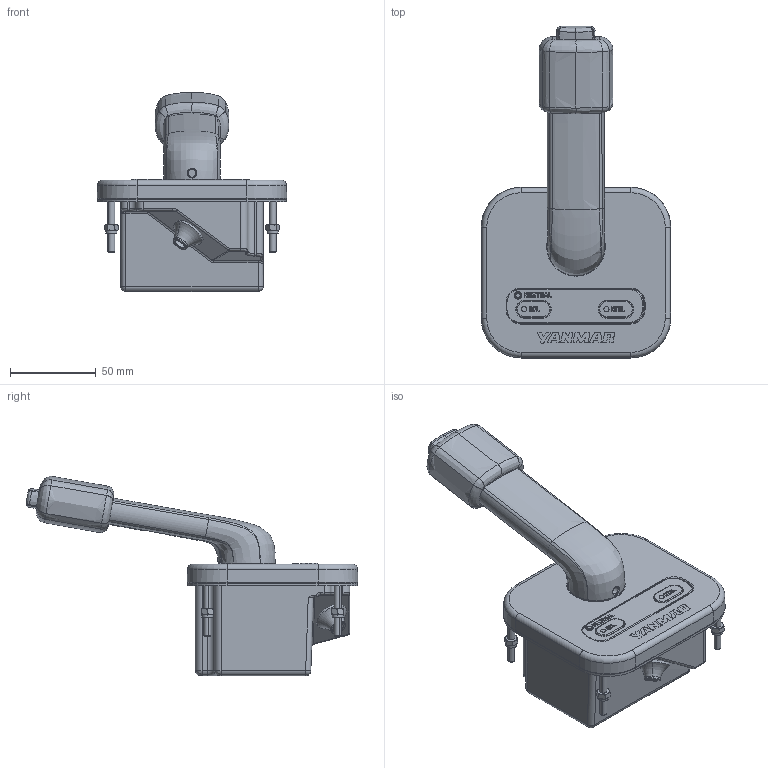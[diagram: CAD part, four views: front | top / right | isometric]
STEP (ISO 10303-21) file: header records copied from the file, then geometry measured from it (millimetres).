
FILE_DESCRIPTION((''),'2;1');
FILE_NAME('164350-41100_ASM','2024-04-22T10:04:54',('IB46307'),(''),'CREO PARAMETRIC BY PTC INC, 2022024','CREO PARAMETRIC BY PTC INC, 2022024','');
FILE_SCHEMA(('CONFIG_CONTROL_DESIGN'));
Products named in the file (11): 164350-41100_BODY; 164350-41100_RUBBER; 164350-41100_LEVER; 164350-41100_LEVER_ASM; 164350-411XX_KEYPLATE_S; 164350-411XX_BUTTON_S; 164350-41100_GASKET_SM; 164350-411XX_LOGO; 164350-41100_THREAD; 164350-41100_NUT; 164350-41100_ASM
Assembly tree (16 placements, depth 3):
  164350-41100_ASM
    164350-41100_BODY
    164350-41100_LEVER_ASM
      164350-41100_RUBBER
      164350-41100_LEVER
    164350-411XX_KEYPLATE_S
    164350-411XX_BUTTON_S
    164350-41100_GASKET_SM
    164350-411XX_LOGO
    164350-41100_THREAD  x4
    164350-41100_NUT  x4
Bounding box: 110.52 x 193.39 x 116.18 mm (x, y, z)
Volume: 40446 mm3; surface area: 126468.9 mm2
Topology: 18 solids, 334 shells, 1681 faces, 5032 edges, 3596 vertices
Faces by surface type: plane 490, cylinder 411, bspline 230, cone 200, torus 163, extrusion 163, sphere 24
Entity records: 73300 total; most frequent: CARTESIAN_POINT 33401, ORIENTED_EDGE 7756, DIRECTION 7436, EDGE_CURVE 4702, VERTEX_POINT 3446, AXIS2_PLACEMENT_3D 2656, VECTOR 2124, LINE 1961
